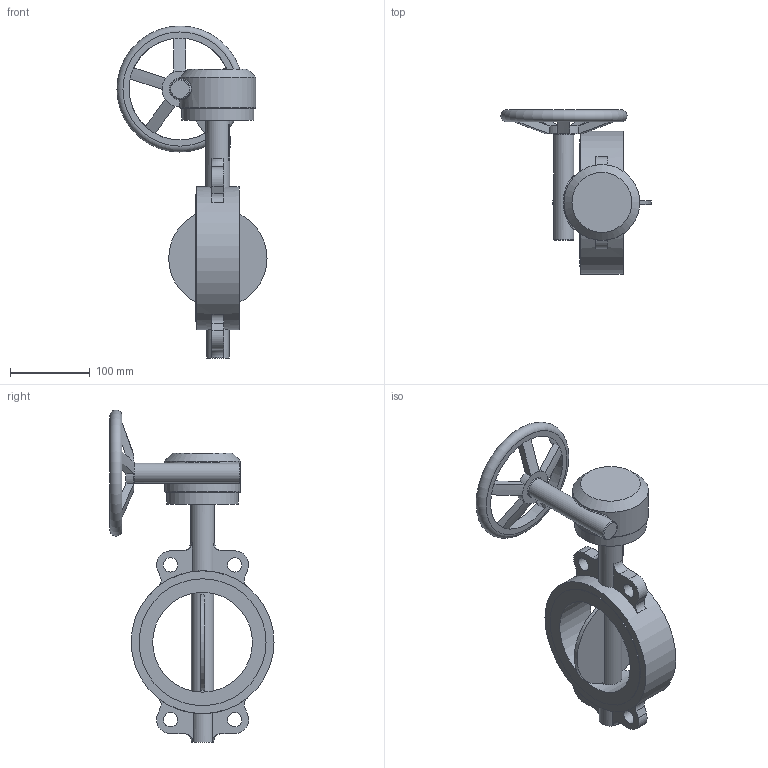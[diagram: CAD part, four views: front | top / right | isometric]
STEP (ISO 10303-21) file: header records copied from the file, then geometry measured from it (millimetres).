
FILE_DESCRIPTION(('STEP AP203'), '1');
FILE_NAME('青蜮铕 017W.Y_DN125_疱潴牝铕', '', ('UNSPECIFIED'), ('UNSPECIFIED'), 'ASCON STEP Converter 1.6', 'ASCON Math Kernel', '');
FILE_SCHEMA(('CONFIG_CONTROL_DESIGN'));
Length unit declared in the file: millimetre
Bounding box: 188.15 x 205.5 x 416 mm (x, y, z)
Volume: 1578109.6 mm3; surface area: 207728.5 mm2
Topology: 1 solids, 1 shells, 138 faces, 345 edges, 218 vertices
Faces by surface type: plane 64, cylinder 45, cone 19, torus 8, bspline 2
Full cylindrical faces by diameter (mm): 8.376 x4, 10 x4, 18 x4, 25 x1, 28 x2, 30 x1, 90 x1, 95 x1, 125 x1, 127.563 x1, 159 x2, 179 x1
Entity records: 7330 total; most frequent: CARTESIAN_POINT 2997, DIRECTION 678, ORIENTED_EDGE 606, EDGE_CURVE 303, AXIS2_PLACEMENT_3D 282, VERTEX_POINT 214, EDGE_LOOP 207, CIRCLE 145
